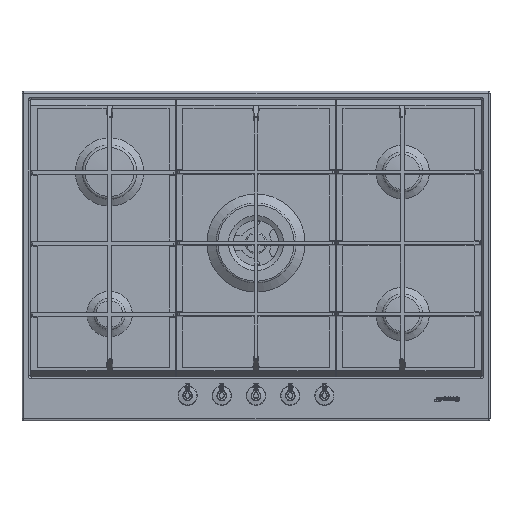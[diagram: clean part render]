
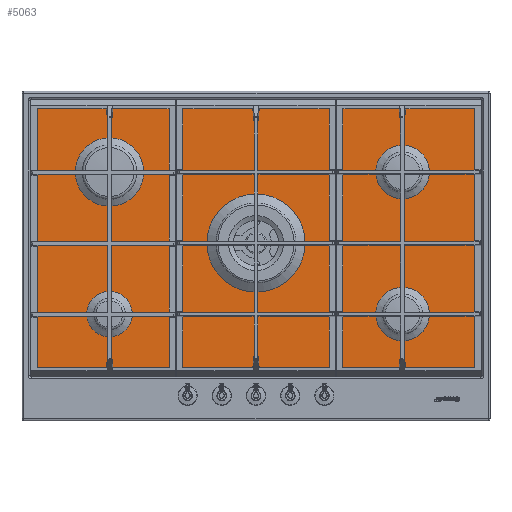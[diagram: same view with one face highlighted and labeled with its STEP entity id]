
A CAD part, top view. The second image highlights one B-rep face of the part: STEP entity #5063.
In plain terms, the highlighted planar face has unit normal (0, 0, 1).
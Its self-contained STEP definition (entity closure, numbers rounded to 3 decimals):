
#1564=LINE('',#28652,#2750);
#1568=LINE('',#28661,#2754);
#1570=LINE('',#28665,#2756);
#1576=LINE('',#28679,#2762);
#2750=VECTOR('',#21000,1.);
#2754=VECTOR('',#21006,1.);
#2756=VECTOR('',#21010,1.);
#2762=VECTOR('',#21018,1.);
#3605=PLANE('',#17051);
#4192=FACE_BOUND('',#6940,.T.);
#4193=FACE_BOUND('',#6941,.T.);
#4194=FACE_BOUND('',#6942,.T.);
#4195=FACE_BOUND('',#6943,.T.);
#4196=FACE_BOUND('',#6944,.T.);
#4197=FACE_BOUND('',#6945,.T.);
#5063=ADVANCED_FACE('',(#4192,#4193,#4194,#4195,#4196,#4197),#3605,.F.);
#6940=EDGE_LOOP('',(#10748));
#6941=EDGE_LOOP('',(#10749));
#6942=EDGE_LOOP('',(#10750));
#6943=EDGE_LOOP('',(#10751));
#6944=EDGE_LOOP('',(#10752));
#6945=EDGE_LOOP('',(#10753,#10754,#10755,#10756,#10757,#10758,#10759,#10760));
#10748=ORIENTED_EDGE('',*,*,#14751,.T.);
#10749=ORIENTED_EDGE('',*,*,#14752,.T.);
#10750=ORIENTED_EDGE('',*,*,#14753,.F.);
#10751=ORIENTED_EDGE('',*,*,#14754,.F.);
#10752=ORIENTED_EDGE('',*,*,#14755,.F.);
#10753=ORIENTED_EDGE('',*,*,#14749,.T.);
#10754=ORIENTED_EDGE('',*,*,#14756,.T.);
#10755=ORIENTED_EDGE('',*,*,#14743,.T.);
#10756=ORIENTED_EDGE('',*,*,#14757,.T.);
#10757=ORIENTED_EDGE('',*,*,#14741,.T.);
#10758=ORIENTED_EDGE('',*,*,#14758,.T.);
#10759=ORIENTED_EDGE('',*,*,#14737,.T.);
#10760=ORIENTED_EDGE('',*,*,#14759,.T.);
#12709=VERTEX_POINT('',#28651);
#12710=VERTEX_POINT('',#28653);
#12713=VERTEX_POINT('',#28660);
#12714=VERTEX_POINT('',#28662);
#12715=VERTEX_POINT('',#28666);
#12716=VERTEX_POINT('',#28667);
#12721=VERTEX_POINT('',#28678);
#12722=VERTEX_POINT('',#28680);
#12723=VERTEX_POINT('',#28684);
#12724=VERTEX_POINT('',#28686);
#12725=VERTEX_POINT('',#28688);
#12726=VERTEX_POINT('',#28690);
#12727=VERTEX_POINT('',#28692);
#14737=EDGE_CURVE('',#12710,#12709,#1564,.T.);
#14741=EDGE_CURVE('',#12714,#12713,#1568,.T.);
#14743=EDGE_CURVE('',#12715,#12716,#1570,.T.);
#14749=EDGE_CURVE('',#12722,#12721,#1576,.T.);
#14751=EDGE_CURVE('',#12723,#12723,#15588,.T.);
#14752=EDGE_CURVE('',#12724,#12724,#15589,.T.);
#14753=EDGE_CURVE('',#12725,#12725,#15590,.T.);
#14754=EDGE_CURVE('',#12726,#12726,#15591,.T.);
#14755=EDGE_CURVE('',#12727,#12727,#15592,.T.);
#14756=EDGE_CURVE('',#12721,#12715,#15593,.T.);
#14757=EDGE_CURVE('',#12716,#12714,#15594,.T.);
#14758=EDGE_CURVE('',#12713,#12710,#15595,.T.);
#14759=EDGE_CURVE('',#12709,#12722,#15596,.T.);
#15588=CIRCLE('',#17042,48.);
#15589=CIRCLE('',#17043,51.25);
#15590=CIRCLE('',#17044,34.);
#15591=CIRCLE('',#17045,40.5);
#15592=CIRCLE('',#17046,40.5);
#15593=CIRCLE('',#17047,2.5);
#15594=CIRCLE('',#17048,2.5);
#15595=CIRCLE('',#17049,2.5);
#15596=CIRCLE('',#17050,2.5);
#17042=AXIS2_PLACEMENT_3D('',#28683,#21022,#21023);
#17043=AXIS2_PLACEMENT_3D('',#28685,#21024,#21025);
#17044=AXIS2_PLACEMENT_3D('',#28687,#21026,#21027);
#17045=AXIS2_PLACEMENT_3D('',#28689,#21028,#21029);
#17046=AXIS2_PLACEMENT_3D('',#28691,#21030,#21031);
#17047=AXIS2_PLACEMENT_3D('',#28693,#21032,#21033);
#17048=AXIS2_PLACEMENT_3D('',#28694,#21034,#21035);
#17049=AXIS2_PLACEMENT_3D('',#28695,#21036,#21037);
#17050=AXIS2_PLACEMENT_3D('',#28696,#21038,#21039);
#17051=AXIS2_PLACEMENT_3D('',#28697,#21040,#21041);
#21000=DIRECTION('',(0.,-1.,0.));
#21006=DIRECTION('',(-1.,0.,0.));
#21010=DIRECTION('',(0.,1.,0.));
#21018=DIRECTION('',(1.,0.,0.));
#21022=DIRECTION('',(0.,0.,-1.));
#21023=DIRECTION('',(1.,0.,0.));
#21024=DIRECTION('',(0.,0.,-1.));
#21025=DIRECTION('',(1.,0.,0.));
#21026=DIRECTION('',(0.,0.,1.));
#21027=DIRECTION('',(1.,0.,0.));
#21028=DIRECTION('',(0.,0.,1.));
#21029=DIRECTION('',(1.,0.,0.));
#21030=DIRECTION('',(0.,0.,1.));
#21031=DIRECTION('',(1.,0.,0.));
#21032=DIRECTION('',(0.,0.,1.));
#21033=DIRECTION('',(-1.,0.,0.));
#21034=DIRECTION('',(0.,0.,1.));
#21035=DIRECTION('',(-1.,0.,0.));
#21036=DIRECTION('',(0.,0.,1.));
#21037=DIRECTION('',(-1.,0.,0.));
#21038=DIRECTION('',(0.,0.,1.));
#21039=DIRECTION('',(-1.,0.,0.));
#21040=DIRECTION('',(0.,0.,-1.));
#21041=DIRECTION('',(-1.,0.,0.));
#28651=CARTESIAN_POINT('',(-350.5,-184.,3.));
#28652=CARTESIAN_POINT('',(-350.5,-186.5,3.));
#28653=CARTESIAN_POINT('',(-350.5,242.,3.));
#28660=CARTESIAN_POINT('',(-348.,244.5,3.));
#28661=CARTESIAN_POINT('',(-350.5,244.5,3.));
#28662=CARTESIAN_POINT('',(348.,244.5,3.));
#28665=CARTESIAN_POINT('',(350.5,244.5,3.));
#28666=CARTESIAN_POINT('',(350.5,-184.,3.));
#28667=CARTESIAN_POINT('',(350.5,242.,3.));
#28678=CARTESIAN_POINT('',(348.,-186.5,3.));
#28679=CARTESIAN_POINT('',(350.5,-186.5,3.));
#28680=CARTESIAN_POINT('',(-348.,-186.5,3.));
#28683=CARTESIAN_POINT('',(0.,21.5,3.));
#28684=CARTESIAN_POINT('',(48.,21.5,3.));
#28685=CARTESIAN_POINT('',(-227.,131.5,3.));
#28686=CARTESIAN_POINT('',(-175.75,131.5,3.));
#28687=CARTESIAN_POINT('',(-227.,-88.5,3.));
#28688=CARTESIAN_POINT('',(-193.,-88.5,3.));
#28689=CARTESIAN_POINT('',(227.,-88.5,3.));
#28690=CARTESIAN_POINT('',(267.5,-88.5,3.));
#28691=CARTESIAN_POINT('',(227.,131.5,3.));
#28692=CARTESIAN_POINT('',(267.5,131.5,3.));
#28693=CARTESIAN_POINT('',(348.,-184.,3.));
#28694=CARTESIAN_POINT('',(348.,242.,3.));
#28695=CARTESIAN_POINT('',(-348.,242.,3.));
#28696=CARTESIAN_POINT('',(-348.,-184.,3.));
#28697=CARTESIAN_POINT('',(0.,1.5,3.));
